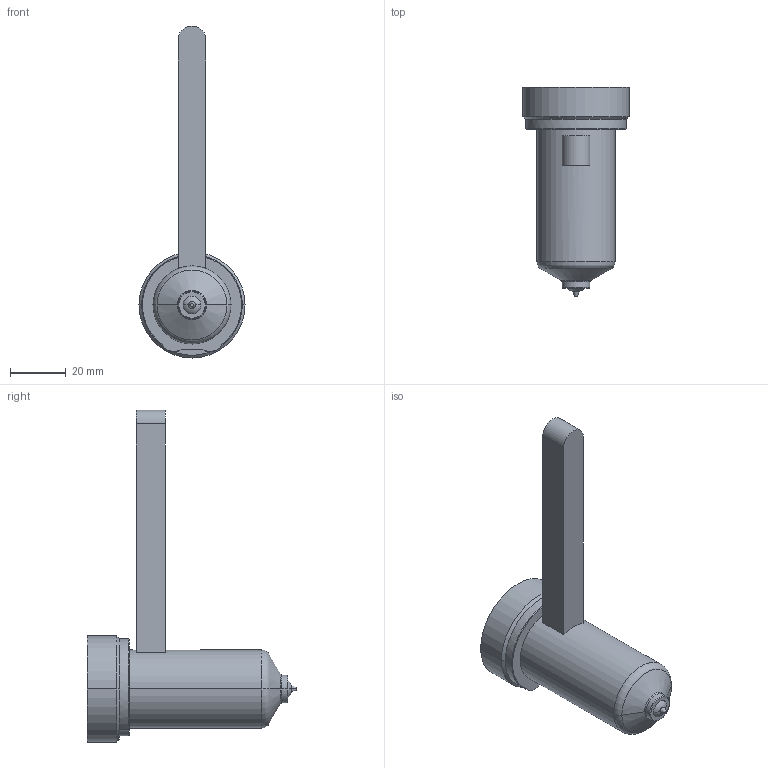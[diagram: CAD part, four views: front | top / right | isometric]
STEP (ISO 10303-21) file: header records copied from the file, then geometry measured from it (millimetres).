
FILE_DESCRIPTION((''),'2;1');
FILE_NAME('EO06_VG-BL_STD_060_COT','2024-02-19T12:59:40',('sundharh'),(''),'CREO PARAMETRIC BY PTC INC, 2023154','CREO PARAMETRIC BY PTC INC, 2023154','');
FILE_SCHEMA(('CONFIG_CONTROL_DESIGN'));
Length unit declared in the file: millimetre
Products named in the file (1): EO06_VG-BL_STD_060_COT
Bounding box: 38 x 75 x 119 mm (x, y, z)
Volume: 57513 mm3; surface area: 11909 mm2
Topology: 1 solids, 1 shells, 38 faces, 81 edges, 48 vertices
Faces by surface type: cylinder 11, plane 10, torus 9, cone 6, sphere 2
Entity records: 1147 total; most frequent: CARTESIAN_POINT 259, DIRECTION 199, ORIENTED_EDGE 162, AXIS2_PLACEMENT_3D 86, EDGE_CURVE 81, VERTEX_POINT 48, CIRCLE 48, EDGE_LOOP 41
